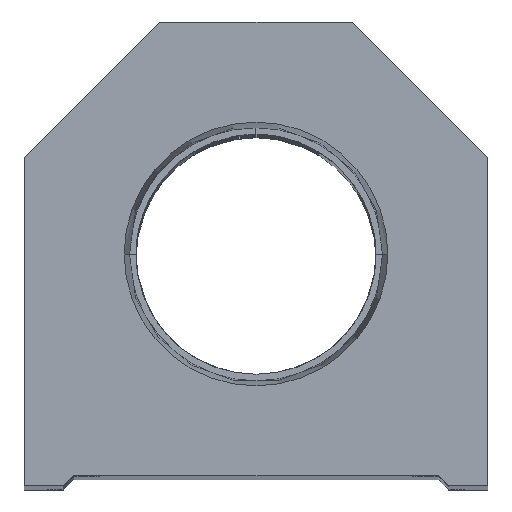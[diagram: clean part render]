
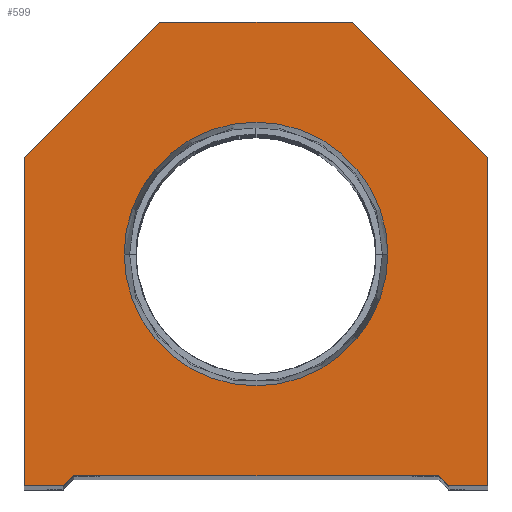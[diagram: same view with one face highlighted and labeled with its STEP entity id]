
A CAD part, top view. The second image highlights one B-rep face of the part: STEP entity #599.
In plain terms, the highlighted planar face has unit normal (0, 0, 1).
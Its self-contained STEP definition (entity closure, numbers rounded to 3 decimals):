
#256 = DIRECTION ( 'NONE',  ( 1., 0., 0. ) ) ;
#548 = CARTESIAN_POINT ( 'NONE',  ( -17.5, 1., 0. ) ) ;
#599 = ADVANCED_FACE ( 'NONE', ( #2807, #2999 ), #8629, .T. ) ;
#744 = AXIS2_PLACEMENT_3D ( 'NONE', #15786, #3119, #10219 ) ;
#1049 = LINE ( 'NONE', #12430, #17593 ) ;
#1261 = CARTESIAN_POINT ( 'NONE',  ( -12.647, 22.25, 0. ) ) ;
#1396 = LINE ( 'NONE', #7029, #15513 ) ;
#1772 = AXIS2_PLACEMENT_3D ( 'NONE', #3094, #5674, #4569 ) ;
#1956 = VERTEX_POINT ( 'NONE', #16650 ) ;
#2082 = DIRECTION ( 'NONE',  ( 1., 0., 0. ) ) ;
#2162 = LINE ( 'NONE', #3475, #6065 ) ;
#2182 = VERTEX_POINT ( 'NONE', #11507 ) ;
#2352 = VERTEX_POINT ( 'NONE', #9347 ) ;
#2689 = ORIENTED_EDGE ( 'NONE', *, *, #9397, .T. ) ;
#2807 = FACE_BOUND ( 'NONE', #13502, .T. ) ;
#2999 = FACE_OUTER_BOUND ( 'NONE', #11814, .T. ) ;
#3094 = CARTESIAN_POINT ( 'NONE',  ( 0., 0., 0. ) ) ;
#3111 = CARTESIAN_POINT ( 'NONE',  ( 9.25, 9.25, 0. ) ) ;
#3119 = DIRECTION ( 'NONE',  ( 0., 0., 1. ) ) ;
#3148 = CARTESIAN_POINT ( 'NONE',  ( 0., 22.25, 0. ) ) ;
#3237 = LINE ( 'NONE', #4532, #8115 ) ;
#3475 = CARTESIAN_POINT ( 'NONE',  ( -22.25, 0., 0. ) ) ;
#3500 = LINE ( 'NONE', #12949, #14366 ) ;
#3782 = ORIENTED_EDGE ( 'NONE', *, *, #9910, .T. ) ;
#3894 = VECTOR ( 'NONE', #11564, 1000. ) ;
#3920 = DIRECTION ( 'NONE',  ( 0., 1., 0. ) ) ;
#4053 = LINE ( 'NONE', #18206, #9491 ) ;
#4197 = ORIENTED_EDGE ( 'NONE', *, *, #16280, .T. ) ;
#4198 = EDGE_CURVE ( 'NONE', #2352, #5022, #5920, .T. ) ;
#4252 = DIRECTION ( 'NONE',  ( -0.707, -0.707, 0. ) ) ;
#4287 = CIRCLE ( 'NONE', #744, 12.647 ) ;
#4299 = CARTESIAN_POINT ( 'NONE',  ( 12.647, 22.25, 0. ) ) ;
#4499 = EDGE_CURVE ( 'NONE', #14024, #7298, #4053, .T. ) ;
#4532 = CARTESIAN_POINT ( 'NONE',  ( -22.25, 31.5, 0. ) ) ;
#4569 = DIRECTION ( 'NONE',  ( 1., 0., 0. ) ) ;
#5022 = VERTEX_POINT ( 'NONE', #6051 ) ;
#5237 = ORIENTED_EDGE ( 'NONE', *, *, #10098, .T. ) ;
#5674 = DIRECTION ( 'NONE',  ( 0., 0., 1. ) ) ;
#5920 = LINE ( 'NONE', #548, #3894 ) ;
#5987 = ORIENTED_EDGE ( 'NONE', *, *, #10843, .T. ) ;
#6051 = CARTESIAN_POINT ( 'NONE',  ( 17.5, 1., 0. ) ) ;
#6065 = VECTOR ( 'NONE', #7801, 1000. ) ;
#6353 = DIRECTION ( 'NONE',  ( -1., 0., 0. ) ) ;
#6505 = LINE ( 'NONE', #16156, #18193 ) ;
#6653 = CIRCLE ( 'NONE', #17877, 12.647 ) ;
#7029 = CARTESIAN_POINT ( 'NONE',  ( -9.25, 9.25, 0. ) ) ;
#7298 = VERTEX_POINT ( 'NONE', #8610 ) ;
#7606 = ORIENTED_EDGE ( 'NONE', *, *, #9818, .F. ) ;
#7801 = DIRECTION ( 'NONE',  ( 0., -1., 0. ) ) ;
#8115 = VECTOR ( 'NONE', #4252, 1000. ) ;
#8610 = CARTESIAN_POINT ( 'NONE',  ( 9.25, 44.5, 0. ) ) ;
#8611 = ORIENTED_EDGE ( 'NONE', *, *, #4198, .T. ) ;
#8629 = PLANE ( 'NONE',  #1772 ) ;
#9347 = CARTESIAN_POINT ( 'NONE',  ( -17.5, 1., 0. ) ) ;
#9397 = EDGE_CURVE ( 'NONE', #7298, #16214, #10781, .T. ) ;
#9491 = VECTOR ( 'NONE', #15335, 1000. ) ;
#9614 = VERTEX_POINT ( 'NONE', #1261 ) ;
#9663 = ORIENTED_EDGE ( 'NONE', *, *, #4499, .T. ) ;
#9818 = EDGE_CURVE ( 'NONE', #9614, #15442, #4287, .T. ) ;
#9910 = EDGE_CURVE ( 'NONE', #17322, #1956, #2162, .T. ) ;
#10098 = EDGE_CURVE ( 'NONE', #13664, #14024, #1049, .T. ) ;
#10219 = DIRECTION ( 'NONE',  ( 1., 0., 0. ) ) ;
#10357 = EDGE_CURVE ( 'NONE', #15442, #9614, #6653, .T. ) ;
#10439 = EDGE_CURVE ( 'NONE', #1956, #2182, #3500, .T. ) ;
#10781 = LINE ( 'NONE', #16351, #17850 ) ;
#10843 = EDGE_CURVE ( 'NONE', #15780, #13664, #6505, .T. ) ;
#11507 = CARTESIAN_POINT ( 'NONE',  ( -18.5, 0., 0. ) ) ;
#11564 = DIRECTION ( 'NONE',  ( 1., 0., 0. ) ) ;
#11805 = EDGE_CURVE ( 'NONE', #16214, #17322, #3237, .T. ) ;
#11814 = EDGE_LOOP ( 'NONE', ( #17350, #16524, #8611, #4197, #5987, #5237, #9663, #2689, #13861, #3782 ) ) ;
#12249 = EDGE_CURVE ( 'NONE', #2182, #2352, #1396, .T. ) ;
#12430 = CARTESIAN_POINT ( 'NONE',  ( 22.25, 0., 0. ) ) ;
#12629 = DIRECTION ( 'NONE',  ( 0.707, -0.707, 0. ) ) ;
#12690 = DIRECTION ( 'NONE',  ( 0.707, 0.707, 0. ) ) ;
#12949 = CARTESIAN_POINT ( 'NONE',  ( -17.5, 0., 0. ) ) ;
#13049 = CARTESIAN_POINT ( 'NONE',  ( 22.25, 31.5, 0. ) ) ;
#13313 = DIRECTION ( 'NONE',  ( 0., 0., 1. ) ) ;
#13502 = EDGE_LOOP ( 'NONE', ( #15550, #7606 ) ) ;
#13664 = VERTEX_POINT ( 'NONE', #14967 ) ;
#13747 = CARTESIAN_POINT ( 'NONE',  ( -9.25, 44.5, 0. ) ) ;
#13861 = ORIENTED_EDGE ( 'NONE', *, *, #11805, .T. ) ;
#14024 = VERTEX_POINT ( 'NONE', #13049 ) ;
#14090 = CARTESIAN_POINT ( 'NONE',  ( 18.5, 0., 0. ) ) ;
#14366 = VECTOR ( 'NONE', #17561, 1000. ) ;
#14967 = CARTESIAN_POINT ( 'NONE',  ( 22.25, 0., 0. ) ) ;
#15222 = LINE ( 'NONE', #3111, #17713 ) ;
#15335 = DIRECTION ( 'NONE',  ( -0.707, 0.707, 0. ) ) ;
#15442 = VERTEX_POINT ( 'NONE', #4299 ) ;
#15513 = VECTOR ( 'NONE', #12690, 1000. ) ;
#15550 = ORIENTED_EDGE ( 'NONE', *, *, #10357, .F. ) ;
#15780 = VERTEX_POINT ( 'NONE', #14090 ) ;
#15786 = CARTESIAN_POINT ( 'NONE',  ( 0., 22.25, 0. ) ) ;
#16156 = CARTESIAN_POINT ( 'NONE',  ( 17.5, 0., 0. ) ) ;
#16214 = VERTEX_POINT ( 'NONE', #13747 ) ;
#16280 = EDGE_CURVE ( 'NONE', #5022, #15780, #15222, .T. ) ;
#16351 = CARTESIAN_POINT ( 'NONE',  ( 9.25, 44.5, 0. ) ) ;
#16524 = ORIENTED_EDGE ( 'NONE', *, *, #12249, .T. ) ;
#16650 = CARTESIAN_POINT ( 'NONE',  ( -22.25, 0., 0. ) ) ;
#17301 = CARTESIAN_POINT ( 'NONE',  ( -22.25, 31.5, 0. ) ) ;
#17322 = VERTEX_POINT ( 'NONE', #17301 ) ;
#17350 = ORIENTED_EDGE ( 'NONE', *, *, #10439, .T. ) ;
#17561 = DIRECTION ( 'NONE',  ( 1., 0., 0. ) ) ;
#17593 = VECTOR ( 'NONE', #3920, 1000. ) ;
#17713 = VECTOR ( 'NONE', #12629, 1000. ) ;
#17850 = VECTOR ( 'NONE', #6353, 1000. ) ;
#17877 = AXIS2_PLACEMENT_3D ( 'NONE', #3148, #13313, #256 ) ;
#18193 = VECTOR ( 'NONE', #2082, 1000. ) ;
#18206 = CARTESIAN_POINT ( 'NONE',  ( 22.25, 31.5, 0. ) ) ;
